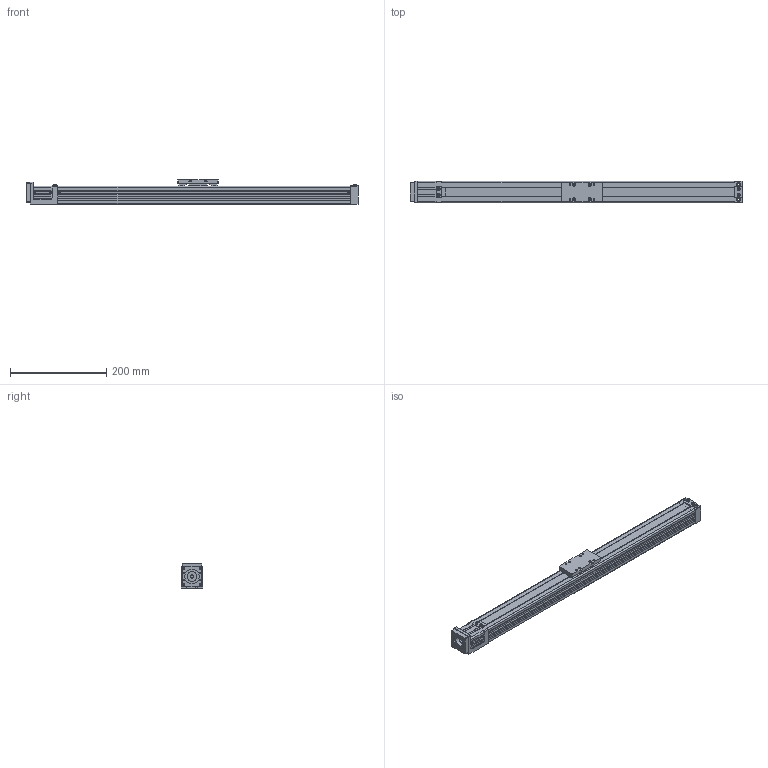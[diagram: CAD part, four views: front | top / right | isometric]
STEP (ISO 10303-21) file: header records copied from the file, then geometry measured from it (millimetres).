
FILE_DESCRIPTION((''),'2;1');
FILE_NAME('D:\製品 (図面)\カタログ用3D\SU部品\SU45×50\ダウンロード用\SU45×50-MB40\SU45×50-500-MB40.stp','2011-06-17T14:40:26',('Tsuchiya'),(''),'Autodesk Inventor 10','Autodesk Inventor 10','');
FILE_SCHEMA(('AUTOMOTIVE_DESIGN { 1 0 10303 214 1 1 1 1 }'));
Length unit declared in the file: millimetre
Products named in the file (3): SU45×50-500-MB40; SB45×50-500-MB40-1(1); SU45×50-T(1)
Assembly tree (2 placements, depth 2):
  SU45×50-500-MB40
    SB45×50-500-MB40-1(1)
    SU45×50-T(1)
Bounding box: 689 x 45 x 50 mm (x, y, z)
Volume: 390708.9 mm3; surface area: 269598.3 mm2
Topology: 2 solids, 2 shells, 694 faces, 1855 edges, 1223 vertices
Faces by surface type: plane 517, cylinder 84, bspline 62, torus 18, cone 13
Full cylindrical faces by diameter (mm): 2.459 x4, 3.242 x8, 3.4 x4, 4.5 x4, 5 x4, 6 x5, 7 x6, 8 x7, 10 x1, 20 x2, 30 x2
Entity records: 21415 total; most frequent: CARTESIAN_POINT 4771, ORIENTED_EDGE 3394, DIRECTION 3182, EDGE_CURVE 1697, VECTOR 1322, LINE 1322, VERTEX_POINT 1181, EDGE_LOOP 942
